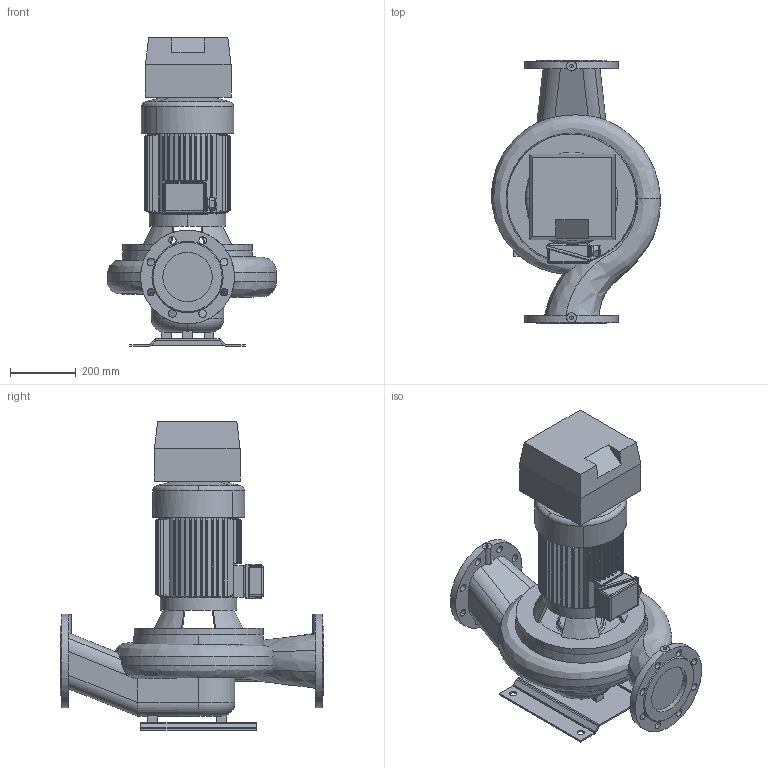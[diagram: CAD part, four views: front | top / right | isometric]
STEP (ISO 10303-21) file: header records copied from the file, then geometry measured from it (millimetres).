
FILE_DESCRIPTION(('STEP AP214'),'1');
FILE_NAME('export.stp','2018-08-08T12:32:51',(' '),(' '),'Spatial InterOp 3D',' ',' ');
FILE_SCHEMA(('AUTOMOTIVE_DESIGN { 1 0 10303 214 1 1 1 1 }'));
Length unit declared in the file: millimetre
Products named in the file (13): W_AL11544NC550KP; V_TL110611291154; P100496; P100495; P100342; V_MOKN133; RU_OKN_133; TSUOJA_OKN_132_133; KYTKOTELO_OKN_100_133; V_MKP133-G2-F31; V_EKF31OKN132133; V_PPAL1154; NC_Size2
Assembly tree (13 placements, depth 4):
  W_AL11544NC550KP
    V_TL110611291154
    P100496
      P100495  x2
      P100342
    V_MKP133-G2-F31
      V_MOKN133
        RU_OKN_133
        TSUOJA_OKN_132_133
        KYTKOTELO_OKN_100_133
      V_EKF31OKN132133
    V_PPAL1154
    NC_Size2
Bounding box: 512.96 x 800 x 936 mm (x, y, z)
Volume: 69819313.7 mm3; surface area: 3099265.4 mm2
Topology: 10 solids, 11 shells, 775 faces, 1980 edges, 1239 vertices
Faces by surface type: cylinder 342, plane 287, cone 104, torus 16, bspline 14, sphere 12
Entity records: 40228 total; most frequent: CARTESIAN_POINT 8733, ORIENTED_EDGE 3892, DIRECTION 3767, STYLED_ITEM 2161, PRESENTATION_STYLE_ASSIGNMENT 2161, COLOUR_RGB 2161, EDGE_CURVE 1946, AXIS2_PLACEMENT_3D 1499
